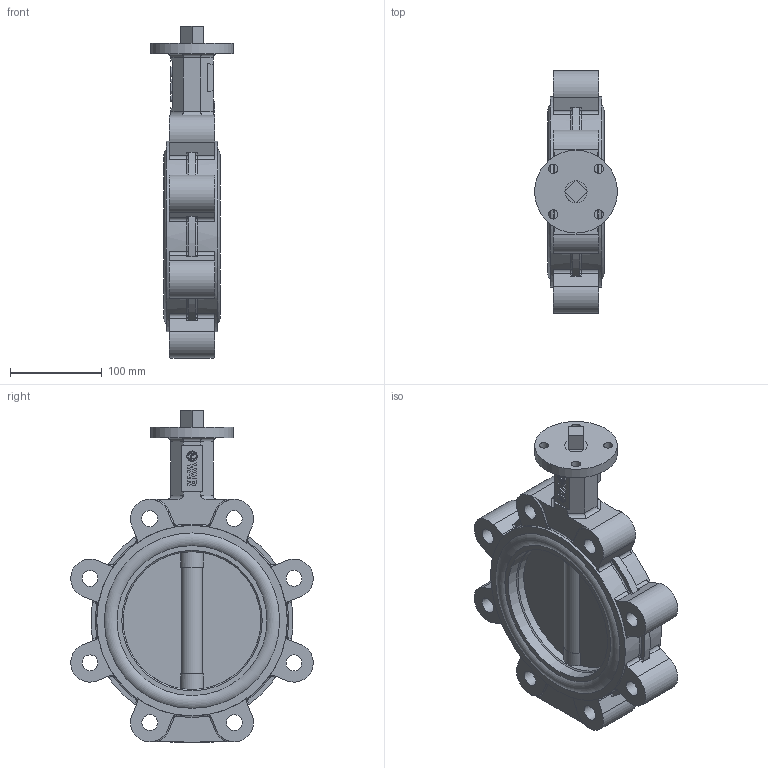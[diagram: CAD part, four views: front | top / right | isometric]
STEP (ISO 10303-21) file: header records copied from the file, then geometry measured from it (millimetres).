
FILE_DESCRIPTION(('STEP AP242'), '1');
FILE_NAME('Ïîâîðîòíûé çàòâîð ïîä ýëåêòðîïðèâîä', '', ('UNSPECIFIED'), ('UNSPECIFIED'), 'C3D Converter', 'C3D Toolkit', '');
FILE_SCHEMA(('AP242_MANAGED_MODEL_BASED_3D_ENGINEERING_MIM_LF { 1 0 10303 442 1 1 4 }'));
Length unit declared in the file: millimetre
Products named in the file (6): П
Assembly tree (6 placements, depth 2):
  (unnamed)
    (unnamed)
    П  x2
    (unnamed)
    (unnamed)
    (unnamed)
Bounding box: 90 x 263.69 x 361 mm (x, y, z)
Volume: 1944287.4 mm3; surface area: 378124.9 mm2
Topology: 6 solids, 6 shells, 579 faces, 1508 edges, 972 vertices
Faces by surface type: plane 238, cylinder 140, extrusion 139, torus 58, cone 4
Full cylindrical faces by diameter (mm): 10 x4, 11.421 x1, 17 x5, 17.294 x8, 18.7 x1, 24.042 x5, 26.41 x4, 90 x1, 150 x1, 152.625 x2, 163.125 x2, 176.896 x4, 190.667 x4, 207.2 x2
Entity records: 22611 total; most frequent: CARTESIAN_POINT 6672, ORIENTED_EDGE 2900, DIRECTION 2486, EDGE_CURVE 1450, VERTEX_POINT 967, VECTOR 890, AXIS2_PLACEMENT_3D 798, LINE 751
